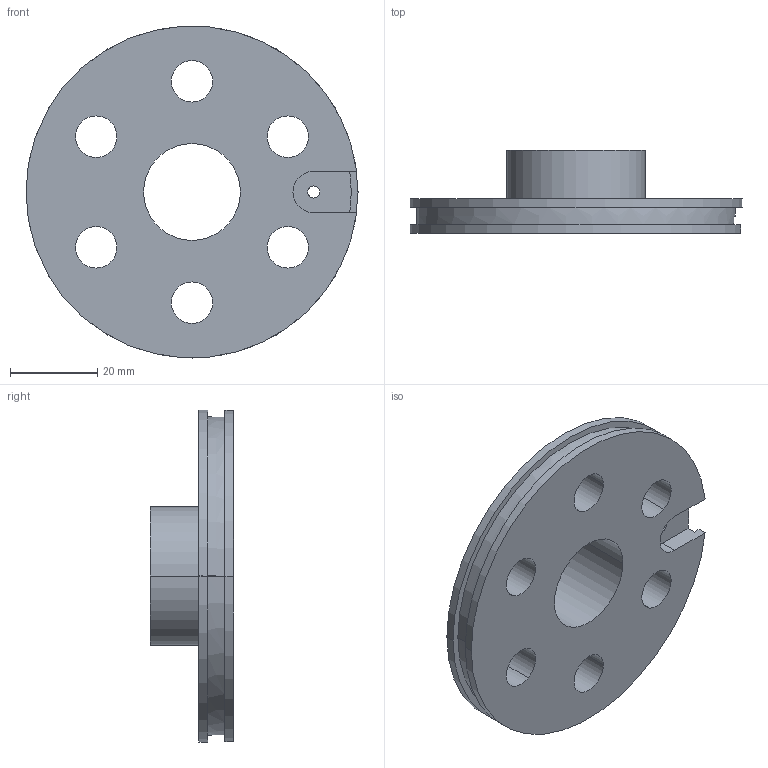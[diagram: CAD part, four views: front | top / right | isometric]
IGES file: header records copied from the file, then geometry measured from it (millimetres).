
Global section: file name: C:\Documents and Settings\Administrator\Desktop\cablepulley.igs; native system: AutoDesk Inventor R2.0 ; preprocessor: AutoDesk Inventor Iges Exporter R2.0; author: No Author specified; organization: No Organization specified; date: 20011218.205536; units: inch
Bounding box: 76.2 x 19.05 x 76.2 mm (x, y, z)
Surface area: 14043.2 mm2 (no closed solid volume)
Topology: 0 solids, 0 shells, 33 faces, 174 edges, 174 vertices
Faces by surface type: bspline 24, revolution 9
